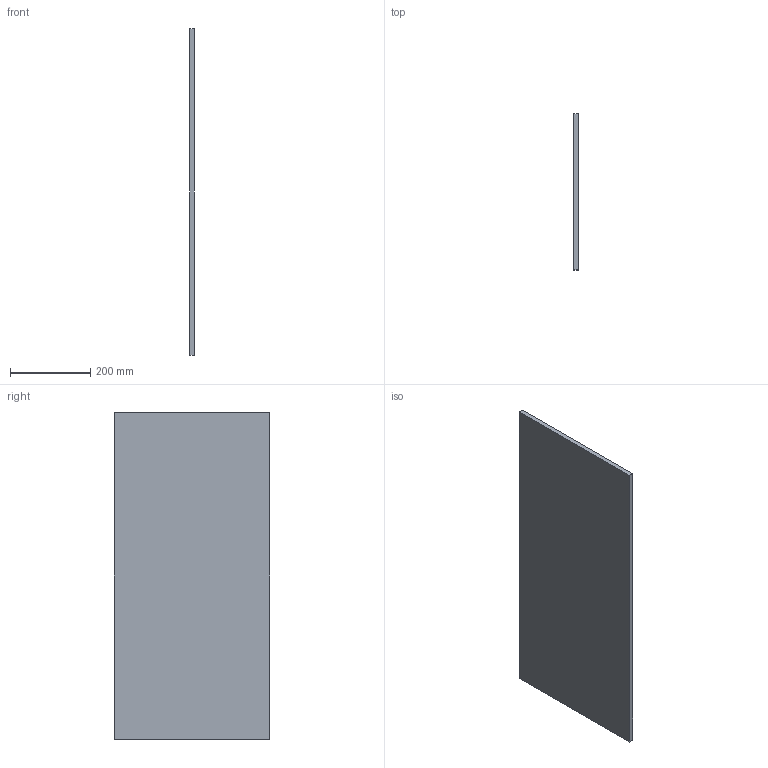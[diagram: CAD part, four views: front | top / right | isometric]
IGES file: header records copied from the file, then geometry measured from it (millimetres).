
Start section: Data from Parasolid IGES Translator 19.0.9, Copyright(c) 2006 Siemens PL M Software. All Rights Reserved.
Global section: file name: noorth-SI-H 81,2 D 38,8 W 1,2_9704.igs; native system: By Siemens PLM Incorporated; preprocessor: XPlus GENERIC/IGES 19.0.9; author: Noname; organization: Noname; date: 20200710.084257; units: metre
Bounding box: 12 x 388 x 812 mm (x, y, z)
Volume: 3780672 mm3; surface area: 658912 mm2
Topology: 1 solids, 1 shells, 6 faces, 12 edges, 8 vertices
Faces by surface type: plane 6
